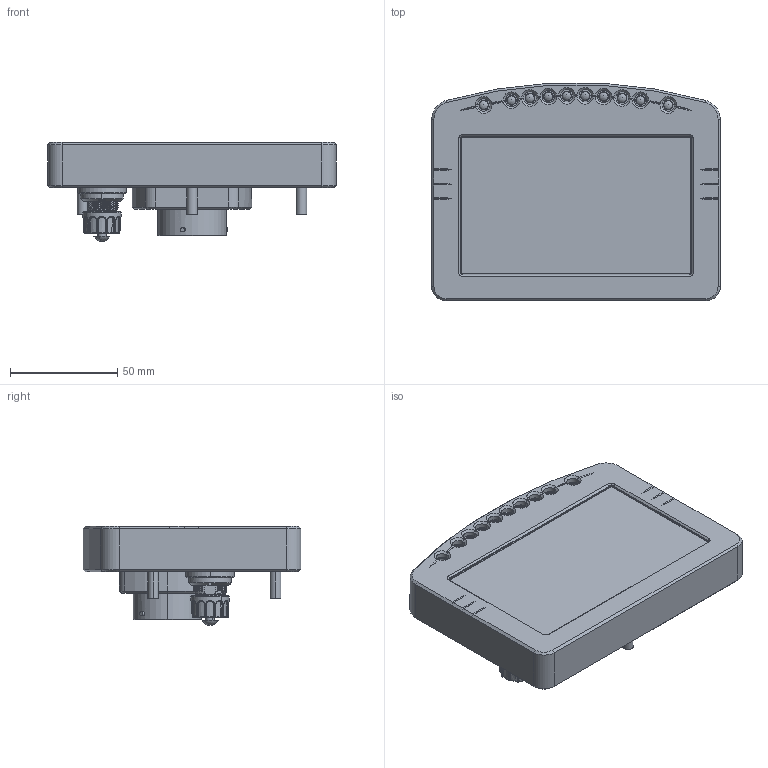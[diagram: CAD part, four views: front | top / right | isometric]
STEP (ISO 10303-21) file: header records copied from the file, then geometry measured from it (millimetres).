
FILE_DESCRIPTION (( 'STEP AP203' ), '1' );
FILE_NAME ('C185 - 18068.STEP', '2023-10-24T22:06:01', ( '' ), ( '' ), 'SwSTEP 2.0', 'SolidWorks 2022', '' );
FILE_SCHEMA (( 'CONFIG_CONTROL_DESIGN' ));
Products named in the file (1): C185 - 18068
Bounding box: 134.5 x 101.46 x 46.2 mm (x, y, z)
Surface area: 116519.4 mm2 (no closed solid volume)
Topology: 0 solids, 30 shells, 3040 faces, 9627 edges, 6713 vertices
Faces by surface type: plane 1636, cylinder 931, bspline 223, cone 182, torus 42, sphere 26
Entity records: 136357 total; most frequent: CARTESIAN_POINT 58665, ORIENTED_EDGE 19038, DIRECTION 12641, EDGE_CURVE 9519, VERTEX_POINT 6663, AXIS2_PLACEMENT_3D 4581, B_SPLINE_CURVE_WITH_KNOTS 3850, VECTOR 3479
